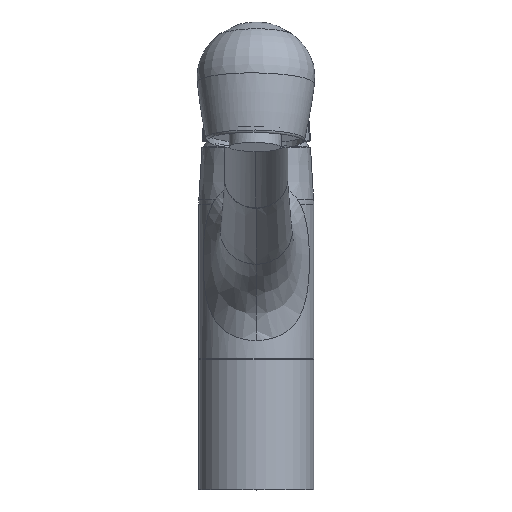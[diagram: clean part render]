
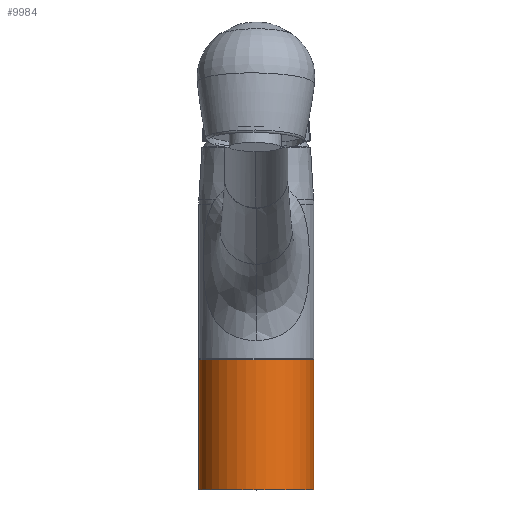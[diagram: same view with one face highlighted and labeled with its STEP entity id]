
A CAD part, top view. The second image highlights one B-rep face of the part: STEP entity #9984.
In plain terms, the highlighted cylindrical face has radius 26.5 mm (diameter 53 mm), a partial arc.
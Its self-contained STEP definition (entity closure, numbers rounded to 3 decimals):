
#894 = CARTESIAN_POINT ( 'NONE',  ( 255.974, 345.884, 274.079 ) ) ;
#1665 = CIRCLE ( 'NONE', #3104, 26.5 ) ;
#2639 = DIRECTION ( 'NONE',  ( -1., 0., 0. ) ) ;
#3104 = AXIS2_PLACEMENT_3D ( 'NONE', #16712, #6053, #18459 ) ;
#4567 = EDGE_CURVE ( 'NONE', #15147, #10841, #1665, .T. ) ;
#5361 = ORIENTED_EDGE ( 'NONE', *, *, #11750, .T. ) ;
#5667 = VERTEX_POINT ( 'NONE', #20505 ) ;
#5673 = CARTESIAN_POINT ( 'NONE',  ( 229.474, 288.884, 274.079 ) ) ;
#6049 = LINE ( 'NONE', #11124, #6071 ) ;
#6053 = DIRECTION ( 'NONE',  ( 0., -1., 0. ) ) ;
#6071 = VECTOR ( 'NONE', #22300, 1000. ) ;
#7122 = CARTESIAN_POINT ( 'NONE',  ( 255.974, 288.884, 274.079 ) ) ;
#7226 = EDGE_LOOP ( 'NONE', ( #11689, #18408, #5361, #15574 ) ) ;
#7502 = CYLINDRICAL_SURFACE ( 'NONE', #20319, 26.5 ) ;
#7528 = FACE_OUTER_BOUND ( 'NONE', #7226, .T. ) ;
#7538 = DIRECTION ( 'NONE',  ( 0., 1., 0. ) ) ;
#7708 = CARTESIAN_POINT ( 'NONE',  ( 282.474, 345.884, 274.079 ) ) ;
#8577 = EDGE_CURVE ( 'NONE', #5667, #10841, #9404, .T. ) ;
#8913 = DIRECTION ( 'NONE',  ( 1., 0., 0. ) ) ;
#9138 = VECTOR ( 'NONE', #7538, 1000. ) ;
#9404 = LINE ( 'NONE', #5673, #9138 ) ;
#9984 = ADVANCED_FACE ( 'NONE', ( #7528 ), #7502, .T. ) ;
#10841 = VERTEX_POINT ( 'NONE', #14761 ) ;
#11124 = CARTESIAN_POINT ( 'NONE',  ( 282.474, 288.884, 274.079 ) ) ;
#11150 = CARTESIAN_POINT ( 'NONE',  ( 282.474, 405.884, 274.079 ) ) ;
#11689 = ORIENTED_EDGE ( 'NONE', *, *, #8577, .F. ) ;
#11750 = EDGE_CURVE ( 'NONE', #22312, #15147, #6049, .T. ) ;
#13204 = CIRCLE ( 'NONE', #22345, 26.5 ) ;
#13259 = DIRECTION ( 'NONE',  ( 0., -1., 0. ) ) ;
#14144 = DIRECTION ( 'NONE',  ( 0., 1., 0. ) ) ;
#14761 = CARTESIAN_POINT ( 'NONE',  ( 229.474, 405.884, 274.079 ) ) ;
#15147 = VERTEX_POINT ( 'NONE', #11150 ) ;
#15574 = ORIENTED_EDGE ( 'NONE', *, *, #4567, .T. ) ;
#16712 = CARTESIAN_POINT ( 'NONE',  ( 255.974, 405.884, 274.079 ) ) ;
#18408 = ORIENTED_EDGE ( 'NONE', *, *, #22367, .F. ) ;
#18459 = DIRECTION ( 'NONE',  ( 1., 0., 0. ) ) ;
#20319 = AXIS2_PLACEMENT_3D ( 'NONE', #7122, #14144, #8913 ) ;
#20505 = CARTESIAN_POINT ( 'NONE',  ( 229.474, 345.884, 274.079 ) ) ;
#22300 = DIRECTION ( 'NONE',  ( 0., 1., 0. ) ) ;
#22312 = VERTEX_POINT ( 'NONE', #7708 ) ;
#22345 = AXIS2_PLACEMENT_3D ( 'NONE', #894, #13259, #2639 ) ;
#22367 = EDGE_CURVE ( 'NONE', #22312, #5667, #13204, .T. ) ;
